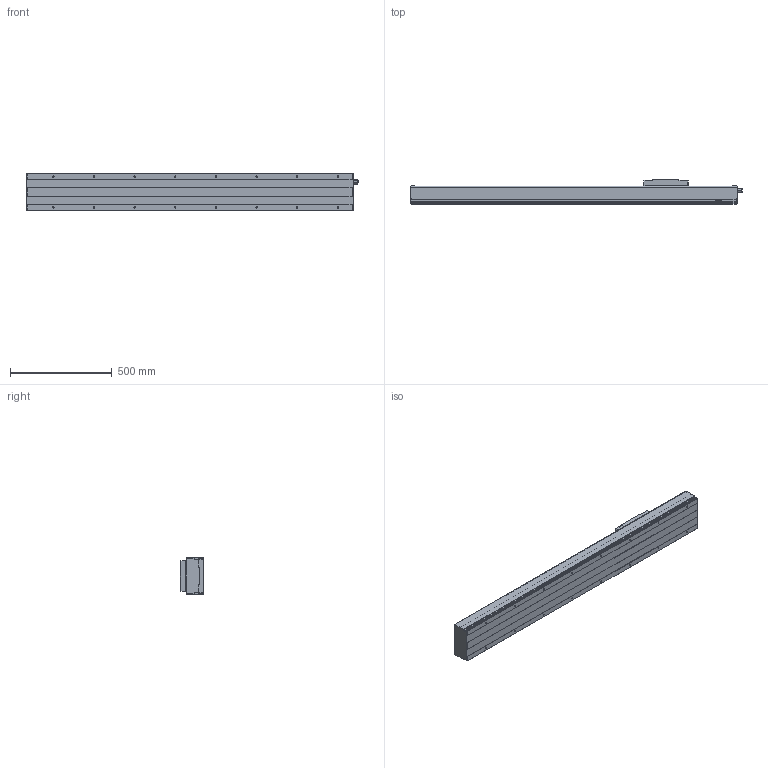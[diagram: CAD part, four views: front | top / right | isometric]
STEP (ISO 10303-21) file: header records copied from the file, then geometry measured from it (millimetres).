
FILE_DESCRIPTION(/* description */ (''),/* implementation_level */ '2;1');
FILE_NAME(/* name */ 'D:\混合母檔20191031\混和母檔\混和母檔\bin\Debug\Download\3D\KS180-10C-1100AFI\KS180-10C-1100AFI.stp',/* time_stamp */ '2019-11-04T16:16:57+08:00',/* author */ ('user'),/* organization */ (''),/* preprocessor_version */ 'ST-DEVELOPER v16.13',/* originating_system */ 'Autodesk Inventor 2018',/* authorisation */ '');
FILE_SCHEMA (('AUTOMOTIVE_DESIGN { 1 0 10303 214 3 1 1 }'));
Length unit declared in the file: millimetre
Products named in the file (3): KS180-10C-1100AFI; KS180-FI; KS180-SL
Assembly tree (2 placements, depth 2):
  KS180-10C-1100AFI
    KS180-FI
    KS180-SL
Bounding box: 1634.5 x 118 x 180 mm (x, y, z)
Volume: 9165005 mm3; surface area: 1958645 mm2
Topology: 4 solids, 8 shells, 742 faces, 1978 edges, 1290 vertices
Faces by surface type: plane 408, bspline 136, cylinder 90, cone 88, torus 16, sphere 4
Full cylindrical faces by diameter (mm): 3.571 x4, 4 x4, 4.134 x4, 4.5 x4, 6 x6, 6.647 x16, 8 x6, 8.016 x1, 8.4 x4, 9.4 x4, 12 x2, 13.1 x1, 15 x1, 18.75 x2, 46 x1, 50 x1
Entity records: 26619 total; most frequent: CARTESIAN_POINT 9360, ORIENTED_EDGE 3690, DIRECTION 3102, EDGE_CURVE 1844, VERTEX_POINT 1261, LINE 1176, VECTOR 1176, AXIS2_PLACEMENT_3D 963
